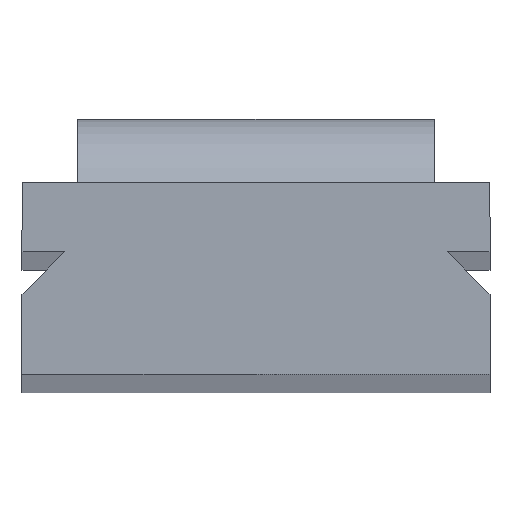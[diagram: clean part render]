
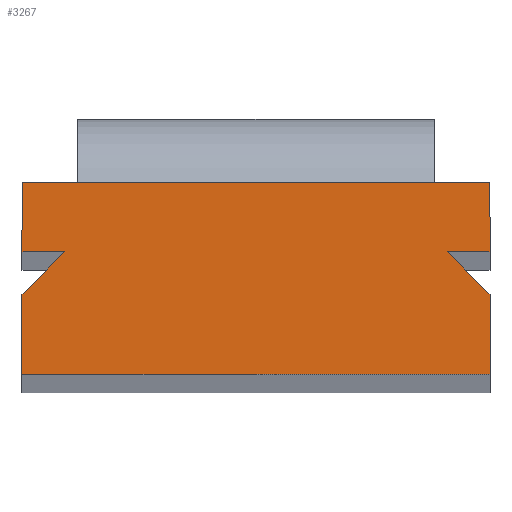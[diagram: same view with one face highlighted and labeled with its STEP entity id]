
A CAD part, top view. The second image highlights one B-rep face of the part: STEP entity #3267.
In plain terms, the highlighted planar face has unit normal (0, 0, 1).
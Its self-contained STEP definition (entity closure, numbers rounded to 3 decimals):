
#9 = LINE ( 'NONE', #2650, #3270 ) ;
#108 = EDGE_CURVE ( 'NONE', #2623, #1164, #3078, .T. ) ;
#221 = CARTESIAN_POINT ( 'NONE',  ( 44., 0., 40. ) ) ;
#319 = DIRECTION ( 'NONE',  ( 1., 0., 0. ) ) ;
#337 = DIRECTION ( 'NONE',  ( 0., 0., -1. ) ) ;
#376 = VECTOR ( 'NONE', #1210, 1000. ) ;
#635 = EDGE_CURVE ( 'NONE', #1923, #2623, #924, .T. ) ;
#682 = DIRECTION ( 'NONE',  ( 0., 1., 0. ) ) ;
#704 = VERTEX_POINT ( 'NONE', #4019 ) ;
#706 = VECTOR ( 'NONE', #1387, 1000. ) ;
#716 = CARTESIAN_POINT ( 'NONE',  ( 44., 23., 40. ) ) ;
#733 = CARTESIAN_POINT ( 'NONE',  ( 44., 36., 40. ) ) ;
#753 = ORIENTED_EDGE ( 'NONE', *, *, #2847, .T. ) ;
#846 = VECTOR ( 'NONE', #4256, 1000. ) ;
#861 = CARTESIAN_POINT ( 'NONE',  ( -44., 0., 40. ) ) ;
#877 = CARTESIAN_POINT ( 'NONE',  ( -44., 36., 40. ) ) ;
#883 = VECTOR ( 'NONE', #2208, 1000. ) ;
#924 = LINE ( 'NONE', #221, #846 ) ;
#1012 = VERTEX_POINT ( 'NONE', #1583 ) ;
#1085 = LINE ( 'NONE', #716, #3194 ) ;
#1164 = VERTEX_POINT ( 'NONE', #1323 ) ;
#1192 = CARTESIAN_POINT ( 'NONE',  ( 44., 0., 40. ) ) ;
#1210 = DIRECTION ( 'NONE',  ( -1., 0., 0. ) ) ;
#1233 = CARTESIAN_POINT ( 'NONE',  ( 44., 15., 40. ) ) ;
#1261 = EDGE_CURVE ( 'NONE', #1478, #3872, #2859, .T. ) ;
#1285 = VERTEX_POINT ( 'NONE', #861 ) ;
#1323 = CARTESIAN_POINT ( 'NONE',  ( 36., 23., 40. ) ) ;
#1380 = ORIENTED_EDGE ( 'NONE', *, *, #1489, .T. ) ;
#1387 = DIRECTION ( 'NONE',  ( 1., 0., 0. ) ) ;
#1478 = VERTEX_POINT ( 'NONE', #2204 ) ;
#1489 = EDGE_CURVE ( 'NONE', #704, #1012, #4128, .T. ) ;
#1583 = CARTESIAN_POINT ( 'NONE',  ( -44., 15., 40. ) ) ;
#1664 = DIRECTION ( 'NONE',  ( -1., 0., 0. ) ) ;
#1825 = ORIENTED_EDGE ( 'NONE', *, *, #635, .T. ) ;
#1833 = VECTOR ( 'NONE', #1847, 1000. ) ;
#1847 = DIRECTION ( 'NONE',  ( -0.707, -0.707, 0. ) ) ;
#1922 = ORIENTED_EDGE ( 'NONE', *, *, #2833, .T. ) ;
#1923 = VERTEX_POINT ( 'NONE', #1192 ) ;
#1971 = FACE_OUTER_BOUND ( 'NONE', #4206, .T. ) ;
#2037 = LINE ( 'NONE', #733, #4100 ) ;
#2131 = ORIENTED_EDGE ( 'NONE', *, *, #2329, .T. ) ;
#2204 = CARTESIAN_POINT ( 'NONE',  ( 44., 36., 40. ) ) ;
#2208 = DIRECTION ( 'NONE',  ( 0., -1., 0. ) ) ;
#2225 = ORIENTED_EDGE ( 'NONE', *, *, #3166, .T. ) ;
#2325 = CARTESIAN_POINT ( 'NONE',  ( -44., 0., 40. ) ) ;
#2329 = EDGE_CURVE ( 'NONE', #3872, #3030, #3848, .T. ) ;
#2364 = LINE ( 'NONE', #2325, #706 ) ;
#2477 = ORIENTED_EDGE ( 'NONE', *, *, #3149, .T. ) ;
#2495 = EDGE_CURVE ( 'NONE', #3030, #704, #2961, .T. ) ;
#2506 = ORIENTED_EDGE ( 'NONE', *, *, #2495, .T. ) ;
#2523 = CARTESIAN_POINT ( 'NONE',  ( -44., 23., 40. ) ) ;
#2604 = VECTOR ( 'NONE', #3715, 1000. ) ;
#2623 = VERTEX_POINT ( 'NONE', #1233 ) ;
#2650 = CARTESIAN_POINT ( 'NONE',  ( -44., 0., 40. ) ) ;
#2711 = DIRECTION ( 'NONE',  ( -0.707, 0.707, 0. ) ) ;
#2769 = VERTEX_POINT ( 'NONE', #3210 ) ;
#2833 = EDGE_CURVE ( 'NONE', #1164, #2769, #1085, .T. ) ;
#2847 = EDGE_CURVE ( 'NONE', #1012, #1285, #9, .T. ) ;
#2859 = LINE ( 'NONE', #3955, #376 ) ;
#2961 = LINE ( 'NONE', #2523, #2604 ) ;
#2994 = AXIS2_PLACEMENT_3D ( 'NONE', #3961, #337, #1664 ) ;
#3030 = VERTEX_POINT ( 'NONE', #4241 ) ;
#3045 = ORIENTED_EDGE ( 'NONE', *, *, #108, .T. ) ;
#3078 = LINE ( 'NONE', #4007, #4166 ) ;
#3087 = ORIENTED_EDGE ( 'NONE', *, *, #1261, .T. ) ;
#3149 = EDGE_CURVE ( 'NONE', #1285, #1923, #2364, .T. ) ;
#3166 = EDGE_CURVE ( 'NONE', #2769, #1478, #2037, .T. ) ;
#3194 = VECTOR ( 'NONE', #319, 1000. ) ;
#3210 = CARTESIAN_POINT ( 'NONE',  ( 44., 23., 40. ) ) ;
#3267 = ADVANCED_FACE ( 'NONE', ( #1971 ), #3297, .F. ) ;
#3270 = VECTOR ( 'NONE', #4009, 1000. ) ;
#3297 = PLANE ( 'NONE',  #2994 ) ;
#3517 = CARTESIAN_POINT ( 'NONE',  ( -44., 15., 40. ) ) ;
#3715 = DIRECTION ( 'NONE',  ( 1., 0., 0. ) ) ;
#3843 = CARTESIAN_POINT ( 'NONE',  ( -44., 36., 40. ) ) ;
#3848 = LINE ( 'NONE', #877, #883 ) ;
#3872 = VERTEX_POINT ( 'NONE', #3843 ) ;
#3955 = CARTESIAN_POINT ( 'NONE',  ( 44., 36., 40. ) ) ;
#3961 = CARTESIAN_POINT ( 'NONE',  ( 0., 0., 40. ) ) ;
#4007 = CARTESIAN_POINT ( 'NONE',  ( 44., 15., 40. ) ) ;
#4009 = DIRECTION ( 'NONE',  ( 0., -1., 0. ) ) ;
#4019 = CARTESIAN_POINT ( 'NONE',  ( -36., 23., 40. ) ) ;
#4100 = VECTOR ( 'NONE', #682, 1000. ) ;
#4128 = LINE ( 'NONE', #3517, #1833 ) ;
#4166 = VECTOR ( 'NONE', #2711, 1000. ) ;
#4206 = EDGE_LOOP ( 'NONE', ( #753, #2477, #1825, #3045, #1922, #2225, #3087, #2131, #2506, #1380 ) ) ;
#4241 = CARTESIAN_POINT ( 'NONE',  ( -44., 23., 40. ) ) ;
#4256 = DIRECTION ( 'NONE',  ( 0., 1., 0. ) ) ;
